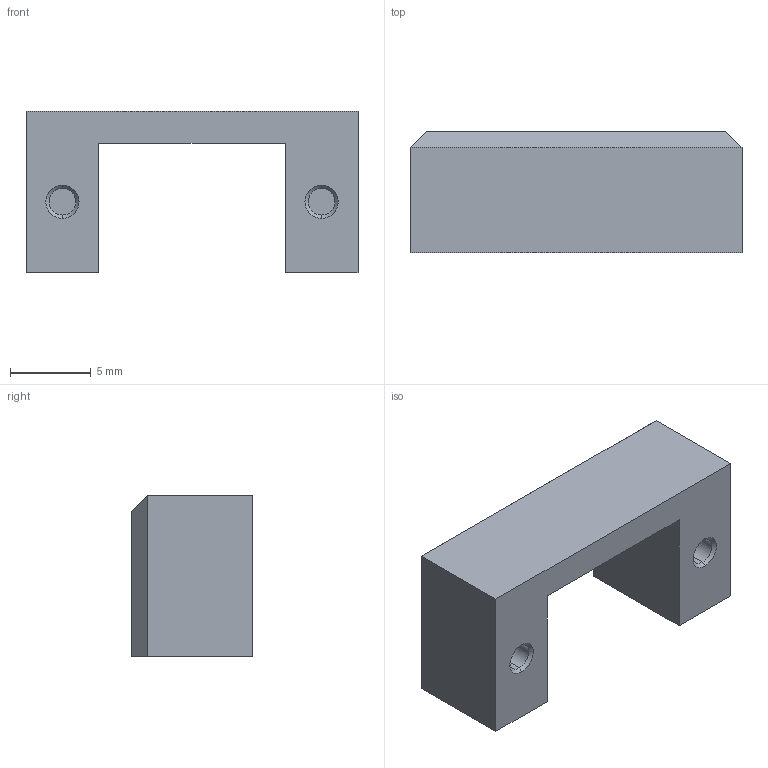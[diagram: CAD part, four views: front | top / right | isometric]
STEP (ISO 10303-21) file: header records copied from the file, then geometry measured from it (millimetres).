
FILE_DESCRIPTION (( 'STEP AP203' ), '1' );
FILE_NAME ('菜輸2.STEP', '2026-09-24T09:40:03', ( '' ), ( '' ), 'SwSTEP 2.0', 'SolidWorks 2016', '' );
FILE_SCHEMA (( 'CONFIG_CONTROL_DESIGN' ));
Length unit declared in the file: millimetre
Products named in the file (1): 菜輸2
Bounding box: 20.5 x 7.5 x 10 mm (x, y, z)
Volume: 782.1 mm3; surface area: 885.6 mm2
Topology: 1 solids, 1 shells, 33 faces, 71 edges, 44 vertices
Faces by surface type: plane 17, cone 8, cylinder 8
Entity records: 966 total; most frequent: DIRECTION 163, CARTESIAN_POINT 149, ORIENTED_EDGE 142, EDGE_CURVE 71, AXIS2_PLACEMENT_3D 58, LINE 47, VECTOR 47, VERTEX_POINT 44
